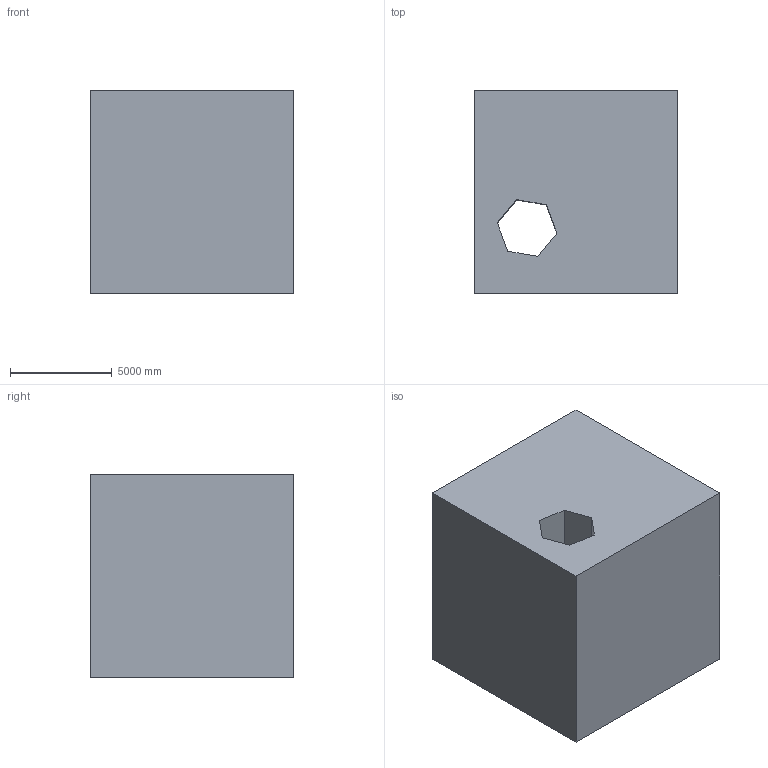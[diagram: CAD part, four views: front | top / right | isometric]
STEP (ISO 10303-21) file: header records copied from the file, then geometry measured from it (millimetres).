
FILE_DESCRIPTION (( 'STEP AP203' ), '1' );
FILE_NAME ('138.STEP', '2022-07-28T13:42:48', ( 'user' ), ( '' ), 'SwSTEP 2.0', 'SolidWorks 2021', '' );
FILE_SCHEMA (( 'CONFIG_CONTROL_DESIGN' ));
Length unit declared in the file: centimetre
Products named in the file (1): 138
Bounding box: 10000 x 10000 x 10000 mm (x, y, z)
Volume: 916258429456.4 mm3; surface area: 752843570.7 mm2
Topology: 1 solids, 1 shells, 18 faces, 42 edges, 28 vertices
Faces by surface type: plane 14, cylinder 4
Entity records: 595 total; most frequent: CARTESIAN_POINT 89, DIRECTION 88, ORIENTED_EDGE 84, EDGE_CURVE 42, VECTOR 34, LINE 34, VERTEX_POINT 28, AXIS2_PLACEMENT_3D 27
